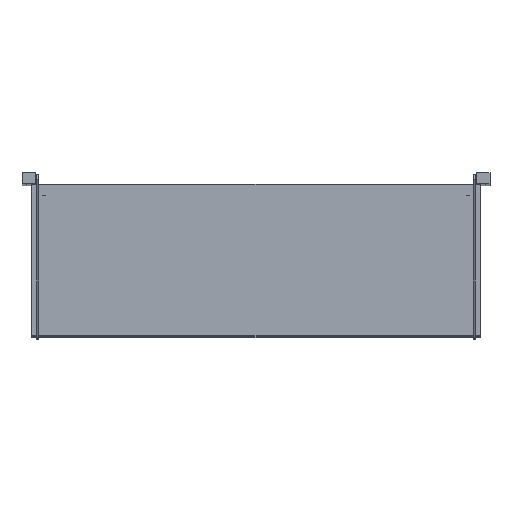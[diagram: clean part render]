
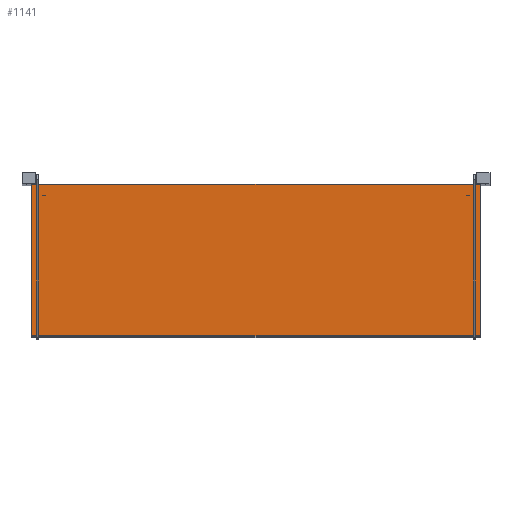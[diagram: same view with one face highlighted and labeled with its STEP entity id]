
A CAD part, top view. The second image highlights one B-rep face of the part: STEP entity #1141.
In plain terms, the highlighted planar face has unit normal (0, 0, 1).
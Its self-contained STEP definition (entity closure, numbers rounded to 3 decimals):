
#370=B_SPLINE_CURVE_WITH_KNOTS('',1,(#17907,#17908),.UNSPECIFIED.,.F.,.F.,
(2,2),(0.,270.),.UNSPECIFIED.);
#374=B_SPLINE_CURVE_WITH_KNOTS('',1,(#17915,#17916),.UNSPECIFIED.,.F.,.F.,
(2,2),(0.,800.),.UNSPECIFIED.);
#376=B_SPLINE_CURVE_WITH_KNOTS('',1,(#17919,#17920),.UNSPECIFIED.,.F.,.F.,
(2,2),(0.,270.),.UNSPECIFIED.);
#379=B_SPLINE_CURVE_WITH_KNOTS('',1,(#17925,#17926),.UNSPECIFIED.,.F.,.F.,
(2,2),(0.,800.),.UNSPECIFIED.);
#1141=ADVANCED_FACE('',(#1973),#11659,.T.);
#1973=FACE_OUTER_BOUND('',#2823,.T.);
#2823=EDGE_LOOP('',(#4333,#4334,#4335,#4336));
#4333=ORIENTED_EDGE('',*,*,#7704,.F.);
#4334=ORIENTED_EDGE('',*,*,#7701,.F.);
#4335=ORIENTED_EDGE('',*,*,#7699,.F.);
#4336=ORIENTED_EDGE('',*,*,#7695,.F.);
#7695=EDGE_CURVE('',#10607,#10608,#370,.T.);
#7699=EDGE_CURVE('',#10608,#10609,#374,.T.);
#7701=EDGE_CURVE('',#10609,#10612,#376,.T.);
#7704=EDGE_CURVE('',#10612,#10607,#379,.T.);
#10607=VERTEX_POINT('',#17813);
#10608=VERTEX_POINT('',#17814);
#10609=VERTEX_POINT('',#17815);
#10612=VERTEX_POINT('',#17818);
#11659=PLANE('',#12801);
#12801=AXIS2_PLACEMENT_3D('',#17779,#13526,$);
#13526=DIRECTION('',(0.,0.,1.));
#17779=CARTESIAN_POINT('',(480.012,155.58,1736.));
#17813=CARTESIAN_POINT('',(-400.,-141.432,1736.));
#17814=CARTESIAN_POINT('',(-400.,128.568,1736.));
#17815=CARTESIAN_POINT('',(400.,128.568,1736.));
#17818=CARTESIAN_POINT('',(400.,-141.432,1736.));
#17907=CARTESIAN_POINT('',(-400.,-141.432,1736.));
#17908=CARTESIAN_POINT('',(-400.,128.568,1736.));
#17915=CARTESIAN_POINT('',(-400.,128.568,1736.));
#17916=CARTESIAN_POINT('',(400.,128.568,1736.));
#17919=CARTESIAN_POINT('',(400.,128.568,1736.));
#17920=CARTESIAN_POINT('',(400.,-141.432,1736.));
#17925=CARTESIAN_POINT('',(400.,-141.432,1736.));
#17926=CARTESIAN_POINT('',(-400.,-141.432,1736.));
